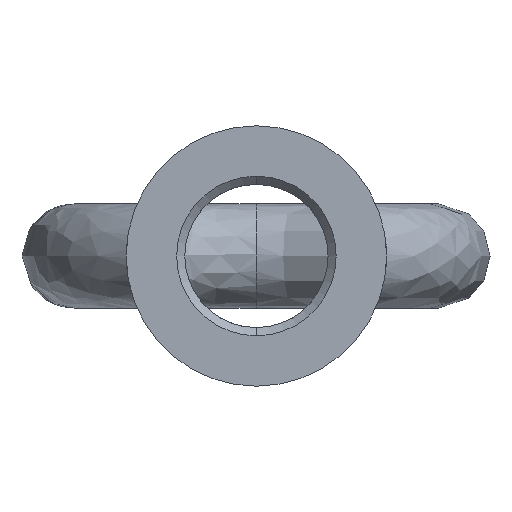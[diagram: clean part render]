
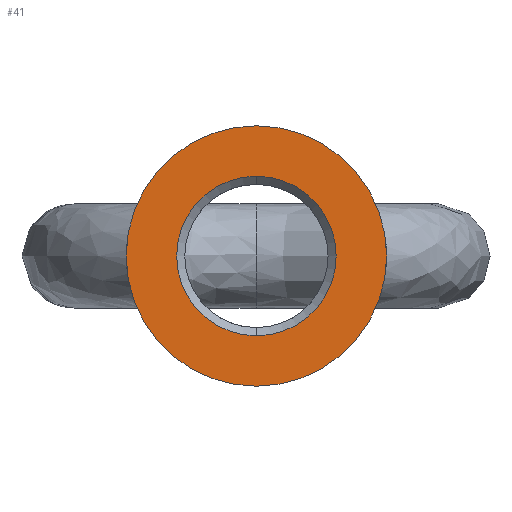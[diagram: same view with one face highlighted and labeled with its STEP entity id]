
A CAD part, front view. The second image highlights one B-rep face of the part: STEP entity #41.
In plain terms, the highlighted planar face has unit normal (0, -1, 0).
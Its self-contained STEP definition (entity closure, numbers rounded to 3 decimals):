
#41 = ADVANCED_FACE ( 'NONE', ( #579, #1581 ), #2586, .T. ) ;
#239 = ORIENTED_EDGE ( 'NONE', *, *, #971, .T. ) ;
#255 = VERTEX_POINT ( 'NONE', #1259 ) ;
#264 = CARTESIAN_POINT ( 'NONE',  ( 0., 0., -12.25 ) ) ;
#351 = CARTESIAN_POINT ( 'NONE',  ( 0., 0., 0. ) ) ;
#361 = VERTEX_POINT ( 'NONE', #264 ) ;
#457 = CIRCLE ( 'NONE', #1341, 20. ) ;
#566 = CIRCLE ( 'NONE', #2235, 20. ) ;
#579 = FACE_BOUND ( 'NONE', #686, .T. ) ;
#582 = DIRECTION ( 'NONE',  ( 0., 1., 0. ) ) ;
#686 = EDGE_LOOP ( 'NONE', ( #2906, #239 ) ) ;
#863 = CARTESIAN_POINT ( 'NONE',  ( 0., 0., 12.25 ) ) ;
#971 = EDGE_CURVE ( 'NONE', #3228, #361, #1820, .T. ) ;
#1025 = ORIENTED_EDGE ( 'NONE', *, *, #1998, .F. ) ;
#1120 = CARTESIAN_POINT ( 'NONE',  ( 0., 0., 0. ) ) ;
#1138 = AXIS2_PLACEMENT_3D ( 'NONE', #351, #2939, #1455 ) ;
#1203 = DIRECTION ( 'NONE',  ( 0., 1., 0. ) ) ;
#1259 = CARTESIAN_POINT ( 'NONE',  ( 0., 0., -20. ) ) ;
#1277 = EDGE_CURVE ( 'NONE', #255, #2707, #457, .T. ) ;
#1295 = AXIS2_PLACEMENT_3D ( 'NONE', #1120, #2606, #2621 ) ;
#1341 = AXIS2_PLACEMENT_3D ( 'NONE', #1877, #2361, #2395 ) ;
#1448 = EDGE_CURVE ( 'NONE', #361, #3228, #3174, .T. ) ;
#1455 = DIRECTION ( 'NONE',  ( 0., 0., -1. ) ) ;
#1480 = CARTESIAN_POINT ( 'NONE',  ( 0., 0., 0. ) ) ;
#1581 = FACE_OUTER_BOUND ( 'NONE', #1930, .T. ) ;
#1718 = CARTESIAN_POINT ( 'NONE',  ( 0., 0., 20. ) ) ;
#1725 = DIRECTION ( 'NONE',  ( 0., 0., 1. ) ) ;
#1775 = ORIENTED_EDGE ( 'NONE', *, *, #1277, .F. ) ;
#1820 = CIRCLE ( 'NONE', #1871, 12.25 ) ;
#1862 = DIRECTION ( 'NONE',  ( 0., 0., -1. ) ) ;
#1871 = AXIS2_PLACEMENT_3D ( 'NONE', #2820, #582, #1862 ) ;
#1877 = CARTESIAN_POINT ( 'NONE',  ( 0., 0., 0. ) ) ;
#1930 = EDGE_LOOP ( 'NONE', ( #1775, #1025 ) ) ;
#1998 = EDGE_CURVE ( 'NONE', #2707, #255, #566, .T. ) ;
#2235 = AXIS2_PLACEMENT_3D ( 'NONE', #1480, #1203, #1725 ) ;
#2361 = DIRECTION ( 'NONE',  ( 0., 1., 0. ) ) ;
#2395 = DIRECTION ( 'NONE',  ( 0., 0., 1. ) ) ;
#2586 = PLANE ( 'NONE',  #1138 ) ;
#2606 = DIRECTION ( 'NONE',  ( 0., 1., 0. ) ) ;
#2621 = DIRECTION ( 'NONE',  ( 0., 0., -1. ) ) ;
#2707 = VERTEX_POINT ( 'NONE', #1718 ) ;
#2820 = CARTESIAN_POINT ( 'NONE',  ( 0., 0., 0. ) ) ;
#2906 = ORIENTED_EDGE ( 'NONE', *, *, #1448, .T. ) ;
#2939 = DIRECTION ( 'NONE',  ( 0., -1., 0. ) ) ;
#3174 = CIRCLE ( 'NONE', #1295, 12.25 ) ;
#3228 = VERTEX_POINT ( 'NONE', #863 ) ;
